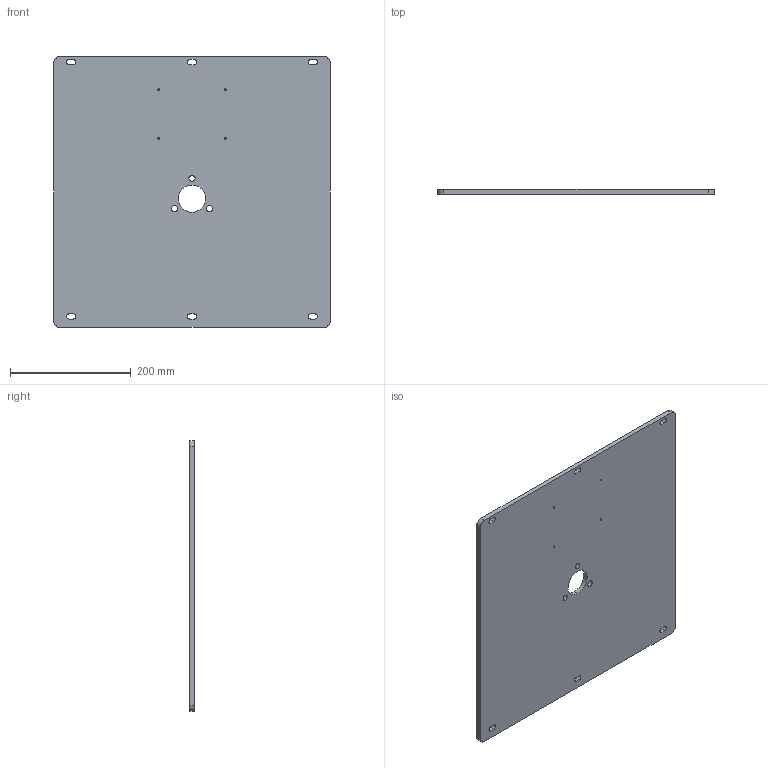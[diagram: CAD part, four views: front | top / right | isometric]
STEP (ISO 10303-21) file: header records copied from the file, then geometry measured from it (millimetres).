
FILE_DESCRIPTION (( 'STEP AP203' ), '1' );
FILE_NAME ('HL-DK-350-1000-1000-02 誘啣(350T).STEP', '2026-05-11T10:37:28', ( 'Windows 蚚誧' ), ( '' ), 'SwSTEP 2.0', 'SolidWorks 2020', '' );
FILE_SCHEMA (( 'CONFIG_CONTROL_DESIGN' ));
Length unit declared in the file: millimetre
Products named in the file (1): HL-DK-350-1000-1000-02 誘啣(350T)
Bounding box: 457 x 8 x 448 mm (x, y, z)
Volume: 1616744.9 mm3; surface area: 422695.2 mm2
Topology: 1 solids, 1 shells, 50 faces, 144 edges, 96 vertices
Faces by surface type: cylinder 32, plane 18
Entity records: 1805 total; most frequent: DIRECTION 310, CARTESIAN_POINT 291, ORIENTED_EDGE 288, EDGE_CURVE 144, AXIS2_PLACEMENT_3D 115, VERTEX_POINT 96, VECTOR 80, LINE 80
